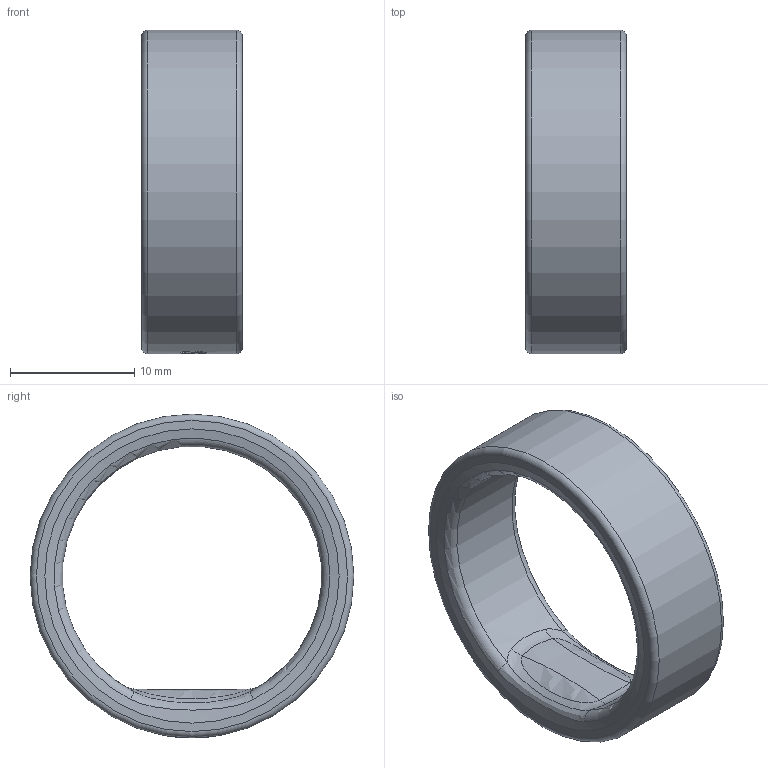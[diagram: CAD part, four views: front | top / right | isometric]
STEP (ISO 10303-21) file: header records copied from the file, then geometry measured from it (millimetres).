
FILE_DESCRIPTION(/* description */ (''),/* implementation_level */ '2;1');
FILE_NAME(/* name */ 'Size 10_Sizing Kit v3.step',/* time_stamp */ '2024-05-07T15:27:56+05:30',/* author */ (''),/* organization */ (''),/* preprocessor_version */ 'ST-DEVELOPER v20',/* originating_system */ 'Autodesk Translation Framework v12.20.1.177',/* authorisation */ '');
FILE_SCHEMA (('AUTOMOTIVE_DESIGN { 1 0 10303 214 3 1 1 }'));
Length unit declared in the file: millimetre
Products named in the file (2): Size 10_Sizing Kit; S10 v7
Assembly tree (1 placements, depth 2):
  Size 10_Sizing Kit
    S10 v7
Bounding box: 8.1 x 26.01 x 26.01 mm (x, y, z)
Volume: 1498.8 mm3; surface area: 1834.6 mm2
Topology: 1 solids, 3 shells, 95 faces, 240 edges, 157 vertices
Faces by surface type: bspline 62, plane 18, cylinder 9, torus 4, cone 2
Full cylindrical faces by diameter (mm): 23.769 x2, 23.813 x2, 25.277 x2, 26.01 x1
Entity records: 5054 total; most frequent: CARTESIAN_POINT 3069, ORIENTED_EDGE 480, DIRECTION 248, EDGE_CURVE 240, VERTEX_POINT 157, B_SPLINE_CURVE_WITH_KNOTS 116, EDGE_LOOP 107, FACE_OUTER_BOUND 95
